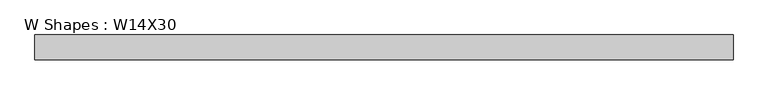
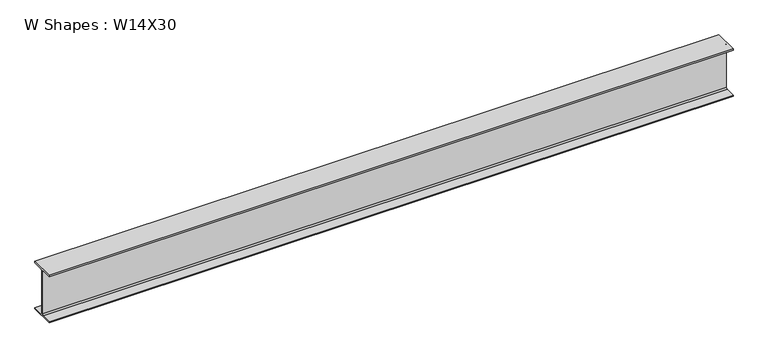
"""IFC4 building model written with IfcOpenShell, lengths in millimetres: beam geometry, W Shapes : W14X30."""

from ifc_helpers import new_model, si_unit, point, frame, frame_2d, origin, place, context, project, spatial, polyline, circle_curve, trimmed, segment, composite_curve, outline, extrude, source, transform, mapped, element, save


def w_shapes_w14x30_0fa609c7(model_context):
    return source(origin(), model_context, "Body", "SweptSolid", [
        extrude(outline(composite_curve([segment(polyline([(85.471, -165.481), (85.471, -175.26), (-85.471, -175.26), (-85.471, -165.481), (-13.589, -165.481)]), True, "CONTINUOUS"), segment(trimmed(circle_curve(frame_2d((-13.589, -155.321)), 10.16), [point((-13.589, -165.481))], [point((-3.429, -155.321))], True, "CARTESIAN"), True, "CONTINUOUS"), segment(polyline([(-3.429, -155.321), (-3.429, 155.321)]), True, "CONTINUOUS"), segment(trimmed(circle_curve(frame_2d((-13.589, 155.321)), 10.16), [point((-3.429, 155.321))], [point((-13.589, 165.481))], True, "CARTESIAN"), True, "CONTINUOUS"), segment(polyline([(-13.589, 165.481), (-85.471, 165.481), (-85.471, 175.26), (85.471, 175.26), (85.471, 165.481), (13.589, 165.481)]), True, "CONTINUOUS"), segment(trimmed(circle_curve(frame_2d((13.589, 155.321)), 10.16), [point((13.589, 165.481))], [point((3.429, 155.321))], True, "CARTESIAN"), True, "CONTINUOUS"), segment(polyline([(3.429, 155.321), (3.429, -155.321)]), True, "CONTINUOUS"), segment(trimmed(circle_curve(frame_2d((13.589, -155.321)), 10.16), [point((3.429, -155.321))], [point((13.589, -165.481))], True, "CARTESIAN"), True, "CONTINUOUS"), segment(polyline([(13.589, -165.481), (85.471, -165.481)]), True, "CONTINUOUS")], self_intersect=False)), frame((-2386.80625, 0.0, 0.0), z_axis=(1.0, 0.0, 0.0), x_axis=(0.0, 1.0, 0.0)), (0.0, 0.0, 1.0), 4773.6125),
    ])


if __name__ == "__main__":
    model = new_model("IFC4")
    model_context = context("Model", 3, world=origin())
    ifc_project = project(units=[si_unit("LENGTHUNIT", "METRE", prefix="MILLI")], contexts=[model_context])
    site = spatial("IfcSite", under=ifc_project)
    building = spatial("IfcBuilding", under=site)
    placement = place(None, origin())
    w_shapes_w14x30_shape = w_shapes_w14x30_0fa609c7(model_context)
    element("IfcBeam", 1, ObjectType="W Shapes : W14X30", at=placement, inside=building, context=model_context, shape_type="MappedRepresentation", body=[
        mapped(w_shapes_w14x30_shape, transform((0.0, 0.0, 0.0), x_axis=(1.0, 0.0, 0.0), y_axis=(0.0, 1.0, 0.0), z_axis=(0.0, 0.0, 1.0))),
    ])
    save(model, "model.ifc")
